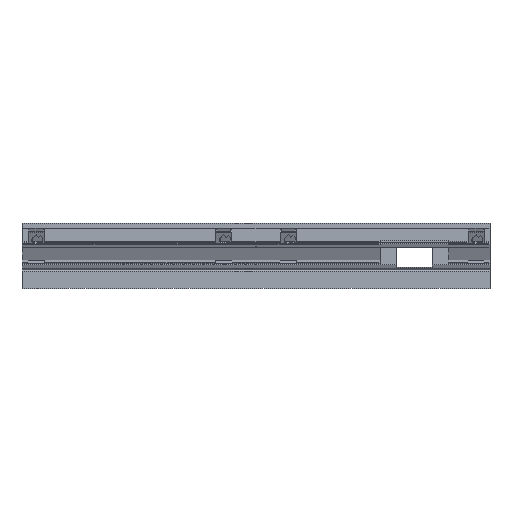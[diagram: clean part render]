
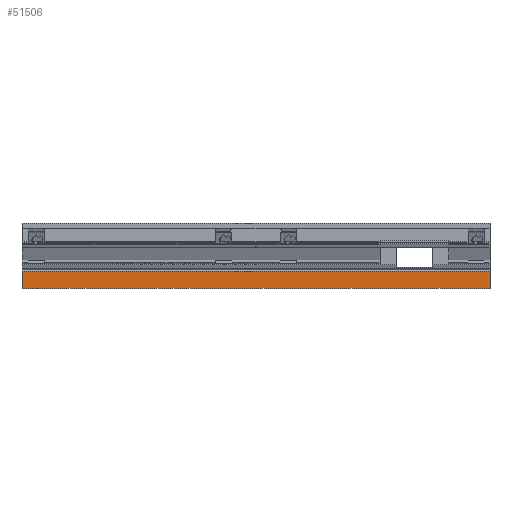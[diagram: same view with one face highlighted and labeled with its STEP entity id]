
A CAD part, front view. The second image highlights one B-rep face of the part: STEP entity #51506.
In plain terms, the highlighted planar face has unit normal (0, -1, 0).
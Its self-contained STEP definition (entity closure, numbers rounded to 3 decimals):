
#32 = PLANE('',#33);
#33 = AXIS2_PLACEMENT_3D('',#34,#35,#36);
#34 = CARTESIAN_POINT('',(-117.,101.,-1.));
#35 = DIRECTION('',(1.,0.,-0.));
#36 = DIRECTION('',(0.,0.,1.));
#773 = VERTEX_POINT('',#774);
#774 = CARTESIAN_POINT('',(-117.,158.5,8.693));
#788 = PLANE('',#789);
#789 = AXIS2_PLACEMENT_3D('',#790,#791,#792);
#790 = CARTESIAN_POINT('',(-128.,147.295,-9.852));
#791 = DIRECTION('',(0.,-0.856,0.517));
#792 = DIRECTION('',(0.,0.517,0.856));
#800 = EDGE_CURVE('',#773,#801,#803,.T.);
#801 = VERTEX_POINT('',#802);
#802 = CARTESIAN_POINT('',(-117.,158.5,0.));
#803 = SURFACE_CURVE('',#804,(#808,#815),.PCURVE_S1.);
#804 = LINE('',#805,#806);
#805 = CARTESIAN_POINT('',(-117.,158.5,-1.));
#806 = VECTOR('',#807,1.);
#807 = DIRECTION('',(0.,-0.,-1.));
#808 = PCURVE('',#32,#809);
#809 = DEFINITIONAL_REPRESENTATION('',(#810),#814);
#810 = LINE('',#811,#812);
#811 = CARTESIAN_POINT('',(0.,-57.5));
#812 = VECTOR('',#813,1.);
#813 = DIRECTION('',(-1.,0.));
#814 = ( GEOMETRIC_REPRESENTATION_CONTEXT(2) 
PARAMETRIC_REPRESENTATION_CONTEXT() REPRESENTATION_CONTEXT('2D SPACE',''
  ) );
#815 = PCURVE('',#816,#821);
#816 = PLANE('',#817);
#817 = AXIS2_PLACEMENT_3D('',#818,#819,#820);
#818 = CARTESIAN_POINT('',(168.,158.5,-1.));
#819 = DIRECTION('',(0.,-1.,0.));
#820 = DIRECTION('',(-1.,0.,0.));
#821 = DEFINITIONAL_REPRESENTATION('',(#822),#826);
#822 = LINE('',#823,#824);
#823 = CARTESIAN_POINT('',(285.,0.));
#824 = VECTOR('',#825,1.);
#825 = DIRECTION('',(0.,1.));
#826 = ( GEOMETRIC_REPRESENTATION_CONTEXT(2) 
PARAMETRIC_REPRESENTATION_CONTEXT() REPRESENTATION_CONTEXT('2D SPACE',''
  ) );
#844 = PLANE('',#845);
#845 = AXIS2_PLACEMENT_3D('',#846,#847,#848);
#846 = CARTESIAN_POINT('',(0.,-2.673,0.));
#847 = DIRECTION('',(0.,0.,1.));
#848 = DIRECTION('',(1.,0.,-0.));
#1038 = PLANE('',#1039);
#1039 = AXIS2_PLACEMENT_3D('',#1040,#1041,#1042);
#1040 = CARTESIAN_POINT('',(117.,101.,-1.));
#1041 = DIRECTION('',(1.,0.,-0.));
#1042 = DIRECTION('',(0.,0.,1.));
#1811 = VERTEX_POINT('',#1812);
#1812 = CARTESIAN_POINT('',(117.,158.5,8.693));
#1833 = EDGE_CURVE('',#1811,#1834,#1836,.T.);
#1834 = VERTEX_POINT('',#1835);
#1835 = CARTESIAN_POINT('',(117.,158.5,0.));
#1836 = SURFACE_CURVE('',#1837,(#1841,#1848),.PCURVE_S1.);
#1837 = LINE('',#1838,#1839);
#1838 = CARTESIAN_POINT('',(117.,158.5,-1.));
#1839 = VECTOR('',#1840,1.);
#1840 = DIRECTION('',(0.,-0.,-1.));
#1841 = PCURVE('',#1038,#1842);
#1842 = DEFINITIONAL_REPRESENTATION('',(#1843),#1847);
#1843 = LINE('',#1844,#1845);
#1844 = CARTESIAN_POINT('',(0.,-57.5));
#1845 = VECTOR('',#1846,1.);
#1846 = DIRECTION('',(-1.,0.));
#1847 = ( GEOMETRIC_REPRESENTATION_CONTEXT(2) 
PARAMETRIC_REPRESENTATION_CONTEXT() REPRESENTATION_CONTEXT('2D SPACE',''
  ) );
#1848 = PCURVE('',#816,#1849);
#1849 = DEFINITIONAL_REPRESENTATION('',(#1850),#1854);
#1850 = LINE('',#1851,#1852);
#1851 = CARTESIAN_POINT('',(51.,0.));
#1852 = VECTOR('',#1853,1.);
#1853 = DIRECTION('',(0.,1.));
#1854 = ( GEOMETRIC_REPRESENTATION_CONTEXT(2) 
PARAMETRIC_REPRESENTATION_CONTEXT() REPRESENTATION_CONTEXT('2D SPACE',''
  ) );
#51482 = EDGE_CURVE('',#801,#1834,#51483,.T.);
#51483 = SURFACE_CURVE('',#51484,(#51488,#51495),.PCURVE_S1.);
#51484 = LINE('',#51485,#51486);
#51485 = CARTESIAN_POINT('',(84.,158.5,0.));
#51486 = VECTOR('',#51487,1.);
#51487 = DIRECTION('',(1.,0.,-0.));
#51488 = PCURVE('',#844,#51489);
#51489 = DEFINITIONAL_REPRESENTATION('',(#51490),#51494);
#51490 = LINE('',#51491,#51492);
#51491 = CARTESIAN_POINT('',(84.,161.173));
#51492 = VECTOR('',#51493,1.);
#51493 = DIRECTION('',(1.,0.));
#51494 = ( GEOMETRIC_REPRESENTATION_CONTEXT(2) 
PARAMETRIC_REPRESENTATION_CONTEXT() REPRESENTATION_CONTEXT('2D SPACE',''
  ) );
#51495 = PCURVE('',#816,#51496);
#51496 = DEFINITIONAL_REPRESENTATION('',(#51497),#51501);
#51497 = LINE('',#51498,#51499);
#51498 = CARTESIAN_POINT('',(84.,-1.));
#51499 = VECTOR('',#51500,1.);
#51500 = DIRECTION('',(-1.,0.));
#51501 = ( GEOMETRIC_REPRESENTATION_CONTEXT(2) 
PARAMETRIC_REPRESENTATION_CONTEXT() REPRESENTATION_CONTEXT('2D SPACE',''
  ) );
#51506 = ADVANCED_FACE('',(#51507),#816,.T.);
#51507 = FACE_BOUND('',#51508,.T.);
#51508 = EDGE_LOOP('',(#51509,#51530,#51531,#51532));
#51509 = ORIENTED_EDGE('',*,*,#51510,.T.);
#51510 = EDGE_CURVE('',#1811,#773,#51511,.T.);
#51511 = SURFACE_CURVE('',#51512,(#51516,#51523),.PCURVE_S1.);
#51512 = LINE('',#51513,#51514);
#51513 = CARTESIAN_POINT('',(20.,158.5,8.693));
#51514 = VECTOR('',#51515,1.);
#51515 = DIRECTION('',(-1.,0.,0.));
#51516 = PCURVE('',#816,#51517);
#51517 = DEFINITIONAL_REPRESENTATION('',(#51518),#51522);
#51518 = LINE('',#51519,#51520);
#51519 = CARTESIAN_POINT('',(148.,-9.693));
#51520 = VECTOR('',#51521,1.);
#51521 = DIRECTION('',(1.,0.));
#51522 = ( GEOMETRIC_REPRESENTATION_CONTEXT(2) 
PARAMETRIC_REPRESENTATION_CONTEXT() REPRESENTATION_CONTEXT('2D SPACE',''
  ) );
#51523 = PCURVE('',#788,#51524);
#51524 = DEFINITIONAL_REPRESENTATION('',(#51525),#51529);
#51525 = LINE('',#51526,#51527);
#51526 = CARTESIAN_POINT('',(21.667,-148.));
#51527 = VECTOR('',#51528,1.);
#51528 = DIRECTION('',(0.,1.));
#51529 = ( GEOMETRIC_REPRESENTATION_CONTEXT(2) 
PARAMETRIC_REPRESENTATION_CONTEXT() REPRESENTATION_CONTEXT('2D SPACE',''
  ) );
#51530 = ORIENTED_EDGE('',*,*,#800,.T.);
#51531 = ORIENTED_EDGE('',*,*,#51482,.T.);
#51532 = ORIENTED_EDGE('',*,*,#1833,.F.);
